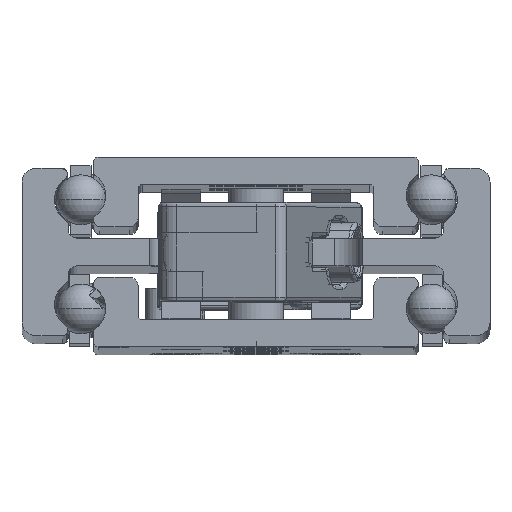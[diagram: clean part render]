
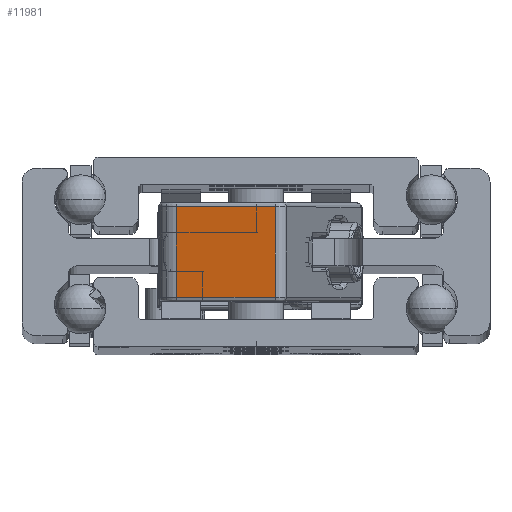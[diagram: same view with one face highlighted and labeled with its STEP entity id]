
A CAD part, top view. The second image highlights one B-rep face of the part: STEP entity #11981.
In plain terms, the highlighted planar face has unit normal (-0.225, 0, 0.974) as drawn and (-1, 0, 0) by its records, which use the part's own axes.
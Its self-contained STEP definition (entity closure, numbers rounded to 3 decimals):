
#185 = VECTOR ( 'NONE', #20121, 1000. ) ;
#1549 = LINE ( 'NONE', #7999, #185 ) ;
#1684 = AXIS2_PLACEMENT_3D ( 'NONE', #7237, #5222, #26553 ) ;
#3748 = CARTESIAN_POINT ( 'NONE',  ( -37., -3., 4.9 ) ) ;
#3987 = EDGE_CURVE ( 'NONE', #11258, #27287, #4488, .T. ) ;
#4488 = LINE ( 'NONE', #9093, #5063 ) ;
#5063 = VECTOR ( 'NONE', #7268, 1000. ) ;
#5222 = DIRECTION ( 'NONE',  ( 1., 0., 0. ) ) ;
#6518 = CARTESIAN_POINT ( 'NONE',  ( -37., -3., -4.9 ) ) ;
#7237 = CARTESIAN_POINT ( 'NONE',  ( -37., -4., 5.4 ) ) ;
#7268 = DIRECTION ( 'NONE',  ( 0., 0., -1. ) ) ;
#7897 = DIRECTION ( 'NONE',  ( 0., 0., 1. ) ) ;
#7999 = CARTESIAN_POINT ( 'NONE',  ( -37., 8., 4.9 ) ) ;
#8155 = LINE ( 'NONE', #17503, #17495 ) ;
#9056 = ORIENTED_EDGE ( 'NONE', *, *, #17369, .T. ) ;
#9093 = CARTESIAN_POINT ( 'NONE',  ( -37., 8., 5.4 ) ) ;
#11258 = VERTEX_POINT ( 'NONE', #14659 ) ;
#11685 = EDGE_CURVE ( 'NONE', #18905, #11258, #1549, .T. ) ;
#11981 = ADVANCED_FACE ( 'NONE', ( #21504 ), #28243, .F. ) ;
#14659 = CARTESIAN_POINT ( 'NONE',  ( -37., 8., 4.9 ) ) ;
#15250 = EDGE_CURVE ( 'NONE', #27287, #18806, #8155, .T. ) ;
#17369 = EDGE_CURVE ( 'NONE', #18806, #18905, #21723, .T. ) ;
#17495 = VECTOR ( 'NONE', #29341, 1000. ) ;
#17503 = CARTESIAN_POINT ( 'NONE',  ( -37., -4., -4.9 ) ) ;
#18806 = VERTEX_POINT ( 'NONE', #6518 ) ;
#18905 = VERTEX_POINT ( 'NONE', #3748 ) ;
#20121 = DIRECTION ( 'NONE',  ( 0., 1., 0. ) ) ;
#21169 = ORIENTED_EDGE ( 'NONE', *, *, #15250, .T. ) ;
#21504 = FACE_OUTER_BOUND ( 'NONE', #25641, .T. ) ;
#21723 = LINE ( 'NONE', #22335, #26646 ) ;
#22335 = CARTESIAN_POINT ( 'NONE',  ( -37., -3., 5.4 ) ) ;
#24306 = ORIENTED_EDGE ( 'NONE', *, *, #3987, .T. ) ;
#25641 = EDGE_LOOP ( 'NONE', ( #24306, #21169, #9056, #27349 ) ) ;
#26553 = DIRECTION ( 'NONE',  ( 0., 1., 0. ) ) ;
#26646 = VECTOR ( 'NONE', #7897, 1000. ) ;
#27287 = VERTEX_POINT ( 'NONE', #29709 ) ;
#27349 = ORIENTED_EDGE ( 'NONE', *, *, #11685, .T. ) ;
#28243 = PLANE ( 'NONE',  #1684 ) ;
#29341 = DIRECTION ( 'NONE',  ( 0., -1., 0. ) ) ;
#29709 = CARTESIAN_POINT ( 'NONE',  ( -37., 8., -4.9 ) ) ;
